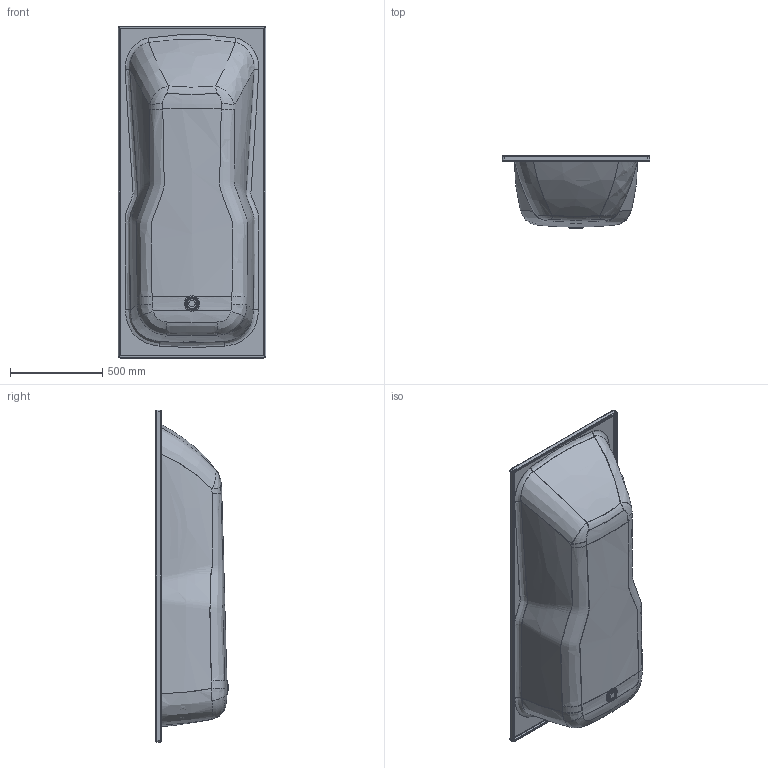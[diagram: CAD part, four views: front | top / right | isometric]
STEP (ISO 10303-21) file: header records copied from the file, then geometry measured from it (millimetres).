
FILE_DESCRIPTION((' '),'2;1');
FILE_NAME( '18510328ec573dc3.stp', '2022-12-14T11:33:47', (' '), ('--- Datakit www.datakit.com---'), ' Datakit CrossCadWare V2022.3 Jun 15 2022', 'DATAKIT 2022 (c)', ' ');
FILE_SCHEMA(('CONFIG_CONTROL_DESIGN'));
Length unit declared in the file: millimetre
Products named in the file (1): 18510327ad8205c3
Bounding box: 800 x 392 x 1800 mm (x, y, z)
Volume: 6190373.2 mm3; surface area: 5258363.4 mm2
Topology: 3 solids, 3 shells, 173 faces, 446 edges, 281 vertices
Faces by surface type: bspline 64, cylinder 38, torus 32, plane 25, offset 8, cone 6
Full cylindrical faces by diameter (mm): 35 x1, 52 x2
Entity records: 88274 total; most frequent: CARTESIAN_POINT 84711, ORIENTED_EDGE 852, DIRECTION 530, EDGE_CURVE 426, VERTEX_POINT 274, AXIS2_PLACEMENT_3D 225, B_SPLINE_CURVE_WITH_KNOTS 223, EDGE_LOOP 191
